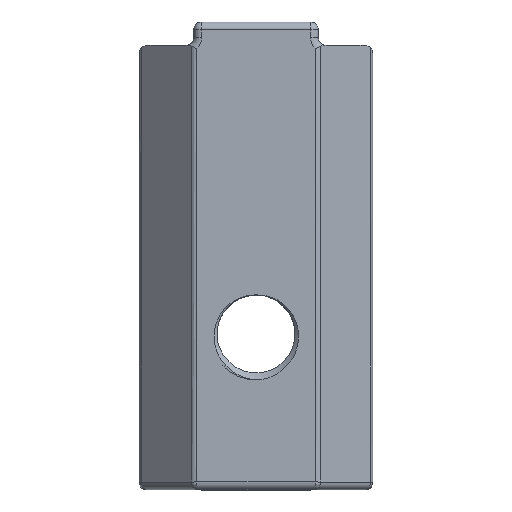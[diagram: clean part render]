
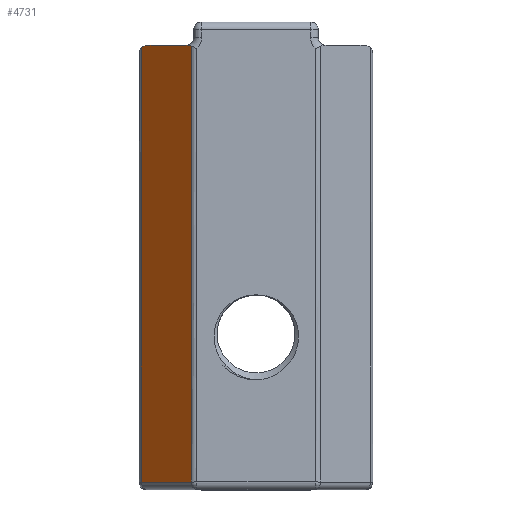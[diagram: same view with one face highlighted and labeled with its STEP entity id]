
A CAD part, top view. The second image highlights one B-rep face of the part: STEP entity #4731.
In plain terms, the highlighted planar face has unit normal (-0.707, 0, 0.707).
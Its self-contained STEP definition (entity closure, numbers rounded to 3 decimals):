
#23 = AXIS2_PLACEMENT_3D ( 'NONE', #981, #4588, #1482 ) ;
#30 = ORIENTED_EDGE ( 'NONE', *, *, #6229, .F. ) ;
#400 = CARTESIAN_POINT ( 'NONE',  ( -8.158, 2.065, 34. ) ) ;
#507 = CARTESIAN_POINT ( 'NONE',  ( -5.304, 2.024, 36.854 ) ) ;
#611 = CARTESIAN_POINT ( 'NONE',  ( -5.304, 2.024, 36.854 ) ) ;
#720 = VERTEX_POINT ( 'NONE', #2302 ) ;
#755 = CARTESIAN_POINT ( 'NONE',  ( -5.361, 2.054, 36.797 ) ) ;
#981 = CARTESIAN_POINT ( 'NONE',  ( -21.079, 19.058, 21.079 ) ) ;
#996 = CARTESIAN_POINT ( 'NONE',  ( -5.304, -25.935, 36.854 ) ) ;
#1239 = DIRECTION ( 'NONE',  ( 0.707, 0., 0.707 ) ) ;
#1252 = CARTESIAN_POINT ( 'NONE',  ( -5.539, 2.066, 36.619 ) ) ;
#1482 = DIRECTION ( 'NONE',  ( 0.707, 0., 0.707 ) ) ;
#1523 = EDGE_CURVE ( 'NONE', #720, #3072, #5333, .T. ) ;
#1655 = EDGE_CURVE ( 'NONE', #1759, #720, #1794, .T. ) ;
#1757 = FACE_OUTER_BOUND ( 'NONE', #2014, .T. ) ;
#1759 = VERTEX_POINT ( 'NONE', #4605 ) ;
#1783 = CARTESIAN_POINT ( 'NONE',  ( -5.658, 2.065, 36.5 ) ) ;
#1794 =( BOUNDED_CURVE ( )  B_SPLINE_CURVE ( 3, ( #400, #3499, #1954, #5592 ),
 .UNSPECIFIED., .F., .F. ) 
 B_SPLINE_CURVE_WITH_KNOTS ( ( 4, 4 ),
 ( 4.712, 5.498 ),
 .UNSPECIFIED. ) 
 CURVE ( )  GEOMETRIC_REPRESENTATION_ITEM ( )  RATIONAL_B_SPLINE_CURVE ( ( 1., 0.949, 0.949, 1. ) ) 
 REPRESENTATION_ITEM ( '' )  );
#1844 = ORIENTED_EDGE ( 'NONE', *, *, #1523, .T. ) ;
#1847 = VERTEX_POINT ( 'NONE', #611 ) ;
#1954 = CARTESIAN_POINT ( 'NONE',  ( -8.416, 2.014, 33.741 ) ) ;
#2014 = EDGE_LOOP ( 'NONE', ( #6237, #4077, #3321, #30, #2693, #1844 ) ) ;
#2075 = EDGE_CURVE ( 'NONE', #3072, #2781, #6515, .T. ) ;
#2210 = EDGE_CURVE ( 'NONE', #2781, #1847, #5113, .T. ) ;
#2302 = CARTESIAN_POINT ( 'NONE',  ( -8.511, 1.919, 33.646 ) ) ;
#2386 = CARTESIAN_POINT ( 'NONE',  ( -8.511, -26.435, 33.646 ) ) ;
#2584 = EDGE_CURVE ( 'NONE', #1847, #6072, #4609, .T. ) ;
#2693 = ORIENTED_EDGE ( 'NONE', *, *, #1655, .T. ) ;
#2781 = VERTEX_POINT ( 'NONE', #996 ) ;
#3072 = VERTEX_POINT ( 'NONE', #3171 ) ;
#3084 = CARTESIAN_POINT ( 'NONE',  ( -5.304, -16.615, 36.854 ) ) ;
#3171 = CARTESIAN_POINT ( 'NONE',  ( -8.511, -25.935, 33.646 ) ) ;
#3321 = ORIENTED_EDGE ( 'NONE', *, *, #2584, .T. ) ;
#3421 = DIRECTION ( 'NONE',  ( 0.707, 0., 0.707 ) ) ;
#3428 = DIRECTION ( 'NONE',  ( 0., -1., 0. ) ) ;
#3499 = CARTESIAN_POINT ( 'NONE',  ( -8.292, 2.065, 33.866 ) ) ;
#3594 = CARTESIAN_POINT ( 'NONE',  ( -5.304, -7.296, 36.854 ) ) ;
#3852 = CARTESIAN_POINT ( 'NONE',  ( -5.304, 2.024, 36.854 ) ) ;
#4017 = VECTOR ( 'NONE', #1239, 1000. ) ;
#4077 = ORIENTED_EDGE ( 'NONE', *, *, #2210, .T. ) ;
#4238 = CARTESIAN_POINT ( 'NONE',  ( -5.658, 2.065, 36.5 ) ) ;
#4341 = CARTESIAN_POINT ( 'NONE',  ( -21.079, 2.065, 21.079 ) ) ;
#4371 = CARTESIAN_POINT ( 'NONE',  ( -5.42, 2.06, 36.738 ) ) ;
#4588 = DIRECTION ( 'NONE',  ( -0.707, 0., 0.707 ) ) ;
#4605 = CARTESIAN_POINT ( 'NONE',  ( -8.158, 2.065, 34. ) ) ;
#4609 = B_SPLINE_CURVE_WITH_KNOTS ( 'NONE', 3,
 ( #3852, #755, #4371, #1252, #4889, #1783 ),
 .UNSPECIFIED., .F., .F.,
 ( 4, 2, 4 ),
 ( 0., 0., 0.001 ),
 .UNSPECIFIED. ) ;
#4614 = CARTESIAN_POINT ( 'NONE',  ( -5.304, -25.935, 36.854 ) ) ;
#4731 = ADVANCED_FACE ( 'NONE', ( #1757 ), #6686, .T. ) ;
#4889 = CARTESIAN_POINT ( 'NONE',  ( -5.598, 2.065, 36.559 ) ) ;
#5113 = B_SPLINE_CURVE_WITH_KNOTS ( 'NONE', 3,
 ( #4614, #3084, #3594, #507 ),
 .UNSPECIFIED., .F., .F.,
 ( 4, 4 ),
 ( -0.029, -0.002 ),
 .UNSPECIFIED. ) ;
#5333 = LINE ( 'NONE', #2386, #6560 ) ;
#5400 = LINE ( 'NONE', #4341, #4017 ) ;
#5592 = CARTESIAN_POINT ( 'NONE',  ( -8.511, 1.919, 33.646 ) ) ;
#6072 = VERTEX_POINT ( 'NONE', #4238 ) ;
#6229 = EDGE_CURVE ( 'NONE', #1759, #6072, #5400, .T. ) ;
#6237 = ORIENTED_EDGE ( 'NONE', *, *, #2075, .T. ) ;
#6448 = VECTOR ( 'NONE', #3421, 1000. ) ;
#6515 = LINE ( 'NONE', #6553, #6448 ) ;
#6553 = CARTESIAN_POINT ( 'NONE',  ( -21.079, -25.935, 21.079 ) ) ;
#6560 = VECTOR ( 'NONE', #3428, 1000. ) ;
#6686 = PLANE ( 'NONE',  #23 ) ;
